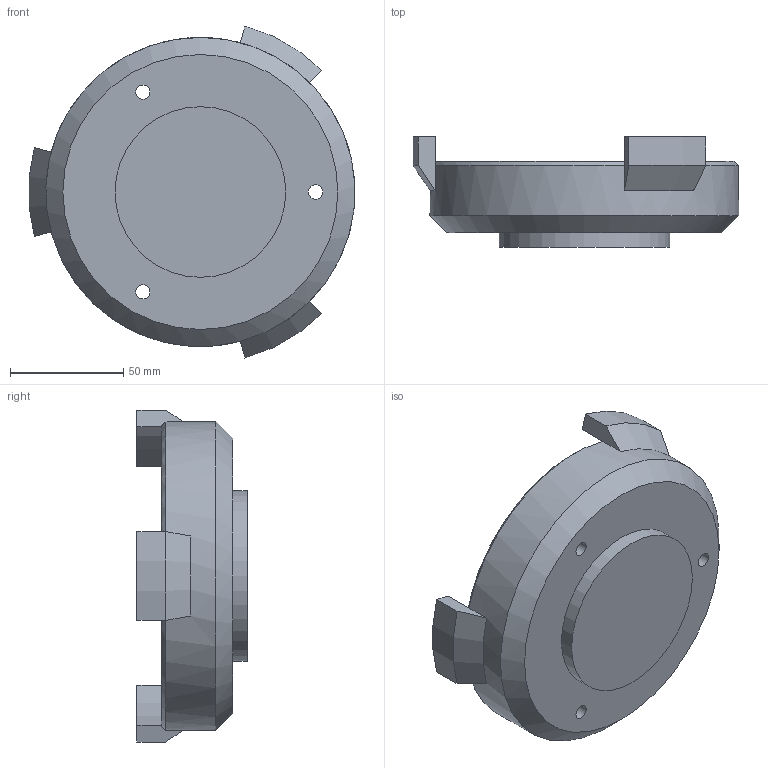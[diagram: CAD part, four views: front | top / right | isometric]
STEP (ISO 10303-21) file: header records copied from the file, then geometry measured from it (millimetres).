
FILE_DESCRIPTION(/* description */ ('STEP AP242 Edition 2','CAx-IF Rec.Pracs.---Representation and Presentation of Product Manufacturing Information (PMI)---4.0---2014-10-13','CAx-IF Rec.Pracs.---3D Tessellated Geometry---0.4---2014-09-14','2;1','CAx-IF Rec.Pracs.---User Defined Attributes---1.5---2016-08-15'),/* implementation_level */ '2;1');
FILE_NAME(/* name */ 'wheel - Mold Bottom',/* time_stamp */ '2026-05-29T17:26:38Z',/* author */ (''),/* organization */ (''),/* preprocessor_version */ 'ST-DEVELOPER v20',/* originating_system */ 'ONSHAPE BY PTC INC, 1.215',/* authorisation */ ' ');
FILE_SCHEMA (('AP242_MANAGED_MODEL_BASED_3D_ENGINEERING_MIM_LF { 1 0 10303 442 3 1 4 }'));
Length unit declared in the file: metre
Products named in the file (1): Mold Bottom
Bounding box: 143.56 x 48.62 x 146.37 mm (x, y, z)
Volume: 161524.9 mm3; surface area: 56228.4 mm2
Topology: 1 solids, 1 shells, 33 faces, 79 edges, 50 vertices
Faces by surface type: plane 13, cylinder 12, cone 8
Full cylindrical faces by diameter (mm): 6.35 x3, 62.573 x1, 75.273 x1, 136.296 x1
Entity records: 906 total; most frequent: DIRECTION 166, CARTESIAN_POINT 144, ORIENTED_EDGE 128, AXIS2_PLACEMENT_3D 68, EDGE_CURVE 64, EDGE_LOOP 52, FACE_BOUND 52, VERTEX_POINT 46
